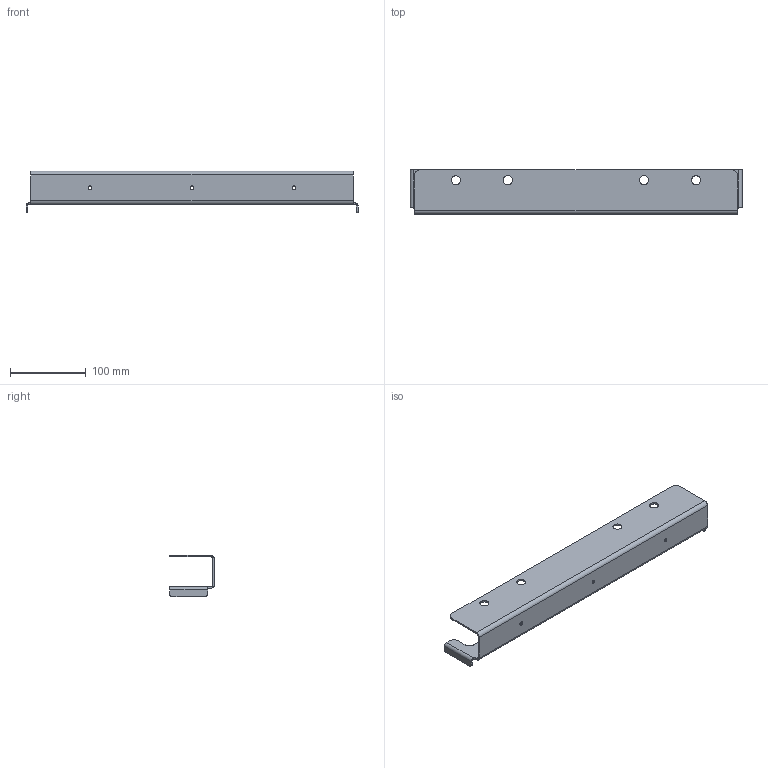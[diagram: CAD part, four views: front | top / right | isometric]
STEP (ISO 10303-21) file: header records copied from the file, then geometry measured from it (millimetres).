
FILE_DESCRIPTION(('CATIA V5 STEP Exchange'),'2;1');
FILE_NAME('E:\吉利商用车G3\10 2D\钣金单件图纸\SHT0015278-高配底支架左边板\SHT0015278.stp','2023-03-02T01:53:55+00:00',('none'),('none'),'CATIA Version 5 Release 20 GA (IN-10)','CATIA V5 STEP AP214','none');
FILE_SCHEMA(('AUTOMOTIVE_DESIGN { 1 0 10303 214 1 1 1 1 }'));
Length unit declared in the file: millimetre
Products named in the file (1): Part60
Bounding box: 439 x 59 x 55 mm (x, y, z)
Volume: 110624.9 mm3; surface area: 113532.1 mm2
Topology: 1 solids, 1 shells, 60 faces, 174 edges, 116 vertices
Faces by surface type: cylinder 38, plane 22
Entity records: 2315 total; most frequent: CARTESIAN_POINT 777, ORIENTED_EDGE 348, DIRECTION 244, EDGE_CURVE 174, VERTEX_POINT 116, AXIS2_PLACEMENT_3D 99, VECTOR 94, LINE 94
